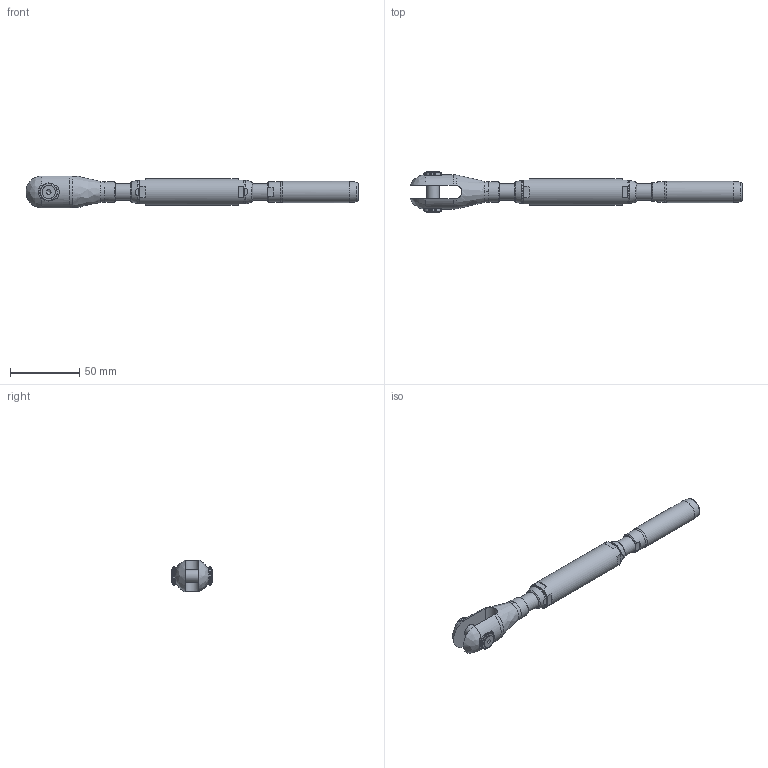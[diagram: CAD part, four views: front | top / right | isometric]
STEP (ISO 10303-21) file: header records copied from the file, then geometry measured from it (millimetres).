
FILE_DESCRIPTION(/* description */ (''),/* implementation_level */ '2;1');
FILE_NAME(/* name */ 'TBC 06_S355',/* time_stamp */ '2023-05-23T18:17:28+02:00',/* author */ (''),/* organization */ (''),/* preprocessor_version */ 'ST-DEVELOPER v16.5',/* originating_system */ 'Rhino 7.22',/* authorisation */ '');
FILE_SCHEMA (('CONFIG_CONTROL_DESIGN'));
Length unit declared in the file: millimetre
Products named in the file (1): Document
Bounding box: 239.44 x 29.31 x 22.91 mm (x, y, z)
Volume: 49607.3 mm3; surface area: 24032.8 mm2
Topology: 10 solids, 10 shells, 141 faces, 383 edges, 264 vertices
Faces by surface type: plane 65, bspline 41, cylinder 35
Full cylindrical faces by diameter (mm): 4.134 x2, 5 x2, 5.5 x2, 9 x1, 9.43 x2, 10 x2, 10.106 x4, 12 x2, 13 x2, 14.5 x2, 15 x1, 15.3 x1, 19 x1
Entity records: 5858 total; most frequent: CARTESIAN_POINT 3430, ORIENTED_EDGE 758, EDGE_CURVE 379, VERTEX_POINT 264, EDGE_LOOP 161, B_SPLINE_CURVE_WITH_KNOTS 154, ADVANCED_FACE 141, FACE_OUTER_BOUND 141
